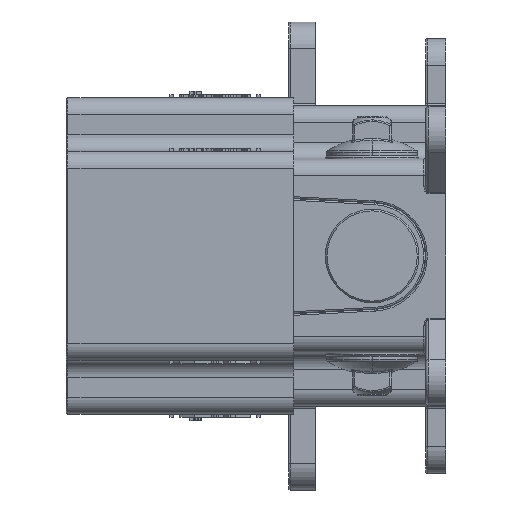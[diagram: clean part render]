
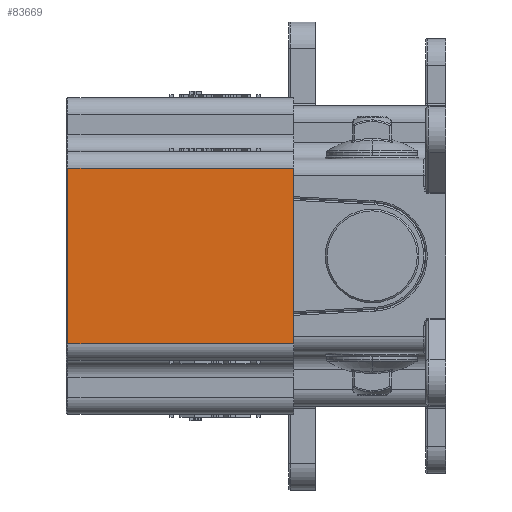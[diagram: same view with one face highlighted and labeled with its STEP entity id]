
A CAD part, left-side view. The second image highlights one B-rep face of the part: STEP entity #83669.
In plain terms, the highlighted planar face has unit normal (-1, 0, 0).
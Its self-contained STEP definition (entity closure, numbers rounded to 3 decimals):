
#1805=DIRECTION('',(0.,1.,0.));
#1806=VECTOR('',#1805,67.5);
#1807=CARTESIAN_POINT('',(-88.3,23.5,26.3));
#1808=LINE('',#1807,#1806);
#1823=DIRECTION('',(0.,0.,1.));
#1824=VECTOR('',#1823,52.6);
#1825=CARTESIAN_POINT('',(-88.3,91.,-26.3));
#1826=LINE('',#1825,#1824);
#1836=DIRECTION('',(0.,-1.,0.));
#1837=VECTOR('',#1836,67.5);
#1838=CARTESIAN_POINT('',(-88.3,91.,-26.3));
#1839=LINE('',#1838,#1837);
#3045=DIRECTION('',(0.,0.,1.));
#3046=VECTOR('',#3045,52.6);
#3047=CARTESIAN_POINT('',(-88.3,23.5,-26.3));
#3048=LINE('',#3047,#3046);
#79193=CARTESIAN_POINT('',(-88.3,23.5,26.3));
#79194=VERTEX_POINT('',#79193);
#79215=CARTESIAN_POINT('',(-88.3,23.5,-26.3));
#79216=VERTEX_POINT('',#79215);
#82341=CARTESIAN_POINT('',(-88.3,91.,-26.3));
#82342=CARTESIAN_POINT('',(-88.3,91.,26.3));
#82343=VERTEX_POINT('',#82341);
#82344=VERTEX_POINT('',#82342);
#83655=CARTESIAN_POINT('',(-88.3,21.5,-31.3));
#83656=DIRECTION('',(-1.,0.,0.));
#83657=DIRECTION('',(0.,0.,1.));
#83658=AXIS2_PLACEMENT_3D('',#83655,#83656,#83657);
#83659=PLANE('',#83658);
#83661=ORIENTED_EDGE('',*,*,#83660,.F.);
#83663=ORIENTED_EDGE('',*,*,#83662,.T.);
#83664=ORIENTED_EDGE('',*,*,#83645,.F.);
#83666=ORIENTED_EDGE('',*,*,#83665,.F.);
#83667=EDGE_LOOP('',(#83661,#83663,#83664,#83666));
#83668=FACE_OUTER_BOUND('',#83667,.F.);
#83669=ADVANCED_FACE('',(#83668),#83659,.T.);
#83645=EDGE_CURVE('',#79194,#82344,#1808,.T.);
#83660=EDGE_CURVE('',#82343,#79216,#1839,.T.);
#83662=EDGE_CURVE('',#82343,#82344,#1826,.T.);
#83665=EDGE_CURVE('',#79216,#79194,#3048,.T.);
